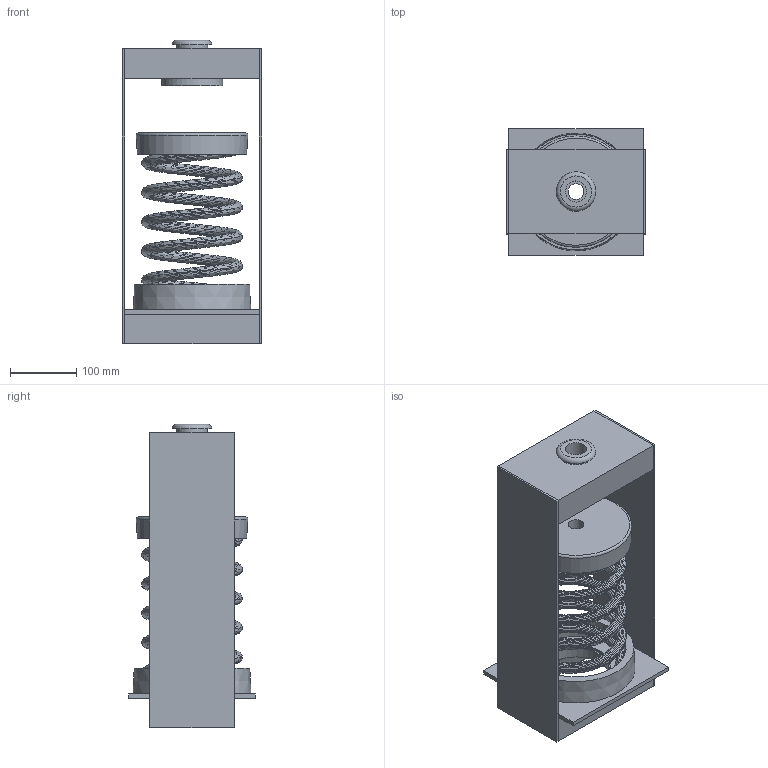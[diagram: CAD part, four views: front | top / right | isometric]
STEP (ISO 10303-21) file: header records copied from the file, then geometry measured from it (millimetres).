
FILE_DESCRIPTION(/* description */ (''),/* implementation_level */ '2;1');
FILE_NAME(/* name */ 'C:\001_Work\Designs\HANGER BOXES\30N 100 SERIES\30N-133-135, 154-157\30N-157.stp',/* time_stamp */ '2015-05-27T10:08:26-04:00',/* author */ ('rramoutar'),/* organization */ ('Mason Industries Inc.'),/* preprocessor_version */ 'ST-DEVELOPER v15.2',/* originating_system */ 'Autodesk Inventor 2014',/* authorisation */ '');
FILE_SCHEMA (('AUTOMOTIVE_DESIGN { 1 0 10303 214 3 1 1 }'));
Length unit declared in the file: inch
Products named in the file (1): 30N-157
Bounding box: 209.55 x 190.5 x 457.14 mm (x, y, z)
Volume: 2063221.4 mm3; surface area: 953304.3 mm2
Topology: 12 solids, 13 shells, 135 faces, 295 edges, 197 vertices
Faces by surface type: plane 71, cylinder 36, bspline 22, cone 4, torus 2
Full cylindrical faces by diameter (mm): 23.812 x2, 31.75 x2, 41.275 x2, 46.831 x1, 47.625 x1, 82.55 x2, 92.075 x1, 96.837 x2, 98.425 x1, 103.188 x1, 104.775 x2, 107.95 x3, 150.812 x1, 155.575 x1, 158.75 x2
Entity records: 14140 total; most frequent: CARTESIAN_POINT 11158, ORIENTED_EDGE 524, DIRECTION 522, EDGE_CURVE 262, EDGE_LOOP 198, AXIS2_PLACEMENT_3D 198, VERTEX_POINT 194, STYLED_ITEM 147
